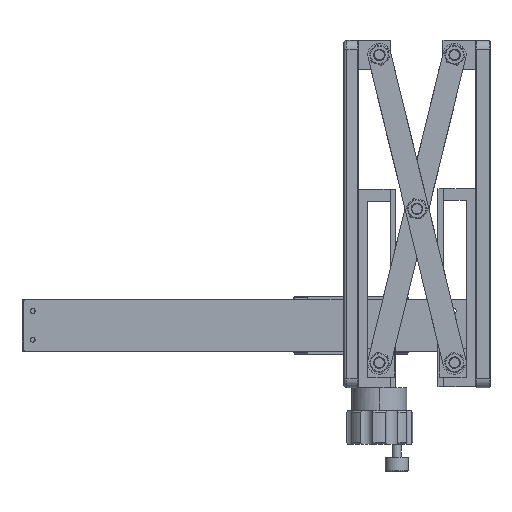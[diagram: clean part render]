
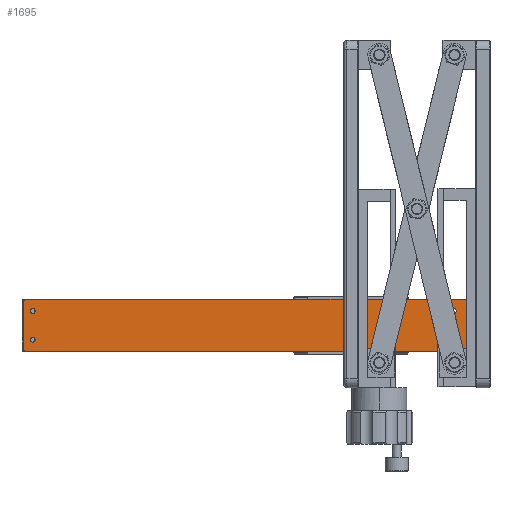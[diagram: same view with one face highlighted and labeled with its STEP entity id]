
A CAD part, left-side view. The second image highlights one B-rep face of the part: STEP entity #1695.
In plain terms, the highlighted planar face has unit normal (-1, 0, 0).
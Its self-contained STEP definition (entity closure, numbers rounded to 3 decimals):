
#116 = EDGE_CURVE ( 'NONE', #22372, #12798, #7504, .T. ) ;
#227 = VERTEX_POINT ( 'NONE', #7852 ) ;
#1053 = DIRECTION ( 'NONE',  ( 0., 1., 0. ) ) ;
#1215 = FACE_OUTER_BOUND ( 'NONE', #20936, .T. ) ;
#1256 = DIRECTION ( 'NONE',  ( 0., -1., 0. ) ) ;
#1667 = DIRECTION ( 'NONE',  ( 0., -1., 0. ) ) ;
#1686 = CARTESIAN_POINT ( 'NONE',  ( -41.555, 125.57, 53.002 ) ) ;
#1695 = ADVANCED_FACE ( 'NONE', ( #18269, #11701, #11332, #24161, #1215 ), #8747, .T. ) ;
#1816 = ORIENTED_EDGE ( 'NONE', *, *, #116, .F. ) ;
#1907 = EDGE_CURVE ( 'NONE', #9234, #32113, #12059, .T. ) ;
#2423 = DIRECTION ( 'NONE',  ( 0., -1., 0. ) ) ;
#2853 = ORIENTED_EDGE ( 'NONE', *, *, #13528, .T. ) ;
#2870 = DIRECTION ( 'NONE',  ( -1., 0., 0. ) ) ;
#3392 = AXIS2_PLACEMENT_3D ( 'NONE', #25658, #23598, #10777 ) ;
#3460 = VECTOR ( 'NONE', #16795, 1000. ) ;
#3512 = CARTESIAN_POINT ( 'NONE',  ( -41.555, 117.22, 45.002 ) ) ;
#3629 = LINE ( 'NONE', #3512, #29737 ) ;
#3656 = DIRECTION ( 'NONE',  ( -1., 0., 0. ) ) ;
#3743 = VERTEX_POINT ( 'NONE', #4622 ) ;
#3856 = AXIS2_PLACEMENT_3D ( 'NONE', #29557, #32042, #2423 ) ;
#3884 = EDGE_CURVE ( 'NONE', #4091, #10082, #6686, .T. ) ;
#3988 = CARTESIAN_POINT ( 'NONE',  ( -41.555, 422.72, 45.002 ) ) ;
#4091 = VERTEX_POINT ( 'NONE', #8296 ) ;
#4199 = AXIS2_PLACEMENT_3D ( 'NONE', #31542, #29019, #1667 ) ;
#4212 = ORIENTED_EDGE ( 'NONE', *, *, #7027, .F. ) ;
#4622 = CARTESIAN_POINT ( 'NONE',  ( -41.555, 422.72, 81.002 ) ) ;
#4764 = CIRCLE ( 'NONE', #4199, 1.65 ) ;
#5405 = EDGE_CURVE ( 'NONE', #27547, #24311, #18224, .T. ) ;
#5466 = CARTESIAN_POINT ( 'NONE',  ( -41.555, 418.22, 53.002 ) ) ;
#5670 = DIRECTION ( 'NONE',  ( -1., 0., 0. ) ) ;
#5758 = ORIENTED_EDGE ( 'NONE', *, *, #8484, .T. ) ;
#6051 = CARTESIAN_POINT ( 'NONE',  ( -41.555, 418.22, 53.002 ) ) ;
#6436 = AXIS2_PLACEMENT_3D ( 'NONE', #7235, #17429, #12227 ) ;
#6578 = CARTESIAN_POINT ( 'NONE',  ( -41.555, 416.57, 73.002 ) ) ;
#6686 = CIRCLE ( 'NONE', #6436, 1.65 ) ;
#6833 = CARTESIAN_POINT ( 'NONE',  ( -41.555, 424.72, 81.002 ) ) ;
#7027 = EDGE_CURVE ( 'NONE', #24311, #27547, #20834, .T. ) ;
#7235 = CARTESIAN_POINT ( 'NONE',  ( -41.555, 127.22, 73.002 ) ) ;
#7504 = CIRCLE ( 'NONE', #28763, 1.65 ) ;
#7538 = ORIENTED_EDGE ( 'NONE', *, *, #5405, .F. ) ;
#7852 = CARTESIAN_POINT ( 'NONE',  ( -41.555, 424.72, 79.002 ) ) ;
#8296 = CARTESIAN_POINT ( 'NONE',  ( -41.555, 128.87, 73.002 ) ) ;
#8377 = EDGE_CURVE ( 'NONE', #10082, #4091, #21142, .T. ) ;
#8484 = EDGE_CURVE ( 'NONE', #32113, #10541, #3629, .T. ) ;
#8747 = PLANE ( 'NONE',  #16715 ) ;
#9234 = VERTEX_POINT ( 'NONE', #3988 ) ;
#9380 = CARTESIAN_POINT ( 'NONE',  ( -41.555, 127.22, 53.002 ) ) ;
#9731 = EDGE_CURVE ( 'NONE', #3743, #227, #27337, .T. ) ;
#10082 = VERTEX_POINT ( 'NONE', #28451 ) ;
#10537 = CARTESIAN_POINT ( 'NONE',  ( -41.555, 419.87, 73.002 ) ) ;
#10541 = VERTEX_POINT ( 'NONE', #20287 ) ;
#10714 = AXIS2_PLACEMENT_3D ( 'NONE', #11747, #14244, #23112 ) ;
#10777 = DIRECTION ( 'NONE',  ( 0., -1., 0. ) ) ;
#11332 = FACE_BOUND ( 'NONE', #14102, .T. ) ;
#11372 = ORIENTED_EDGE ( 'NONE', *, *, #18642, .F. ) ;
#11701 = FACE_BOUND ( 'NONE', #31743, .T. ) ;
#11747 = CARTESIAN_POINT ( 'NONE',  ( -41.555, 127.22, 73.002 ) ) ;
#11899 = DIRECTION ( 'NONE',  ( 0., -1., 0. ) ) ;
#12059 = LINE ( 'NONE', #16762, #23370 ) ;
#12115 = DIRECTION ( 'NONE',  ( -1., 0., 0. ) ) ;
#12227 = DIRECTION ( 'NONE',  ( 0., -1., 0. ) ) ;
#12356 = DIRECTION ( 'NONE',  ( 0., -1., 0. ) ) ;
#12783 = LINE ( 'NONE', #6833, #3460 ) ;
#12798 = VERTEX_POINT ( 'NONE', #6578 ) ;
#13144 = AXIS2_PLACEMENT_3D ( 'NONE', #5466, #2870, #20228 ) ;
#13442 = CARTESIAN_POINT ( 'NONE',  ( -41.555, 424.72, 47.002 ) ) ;
#13528 = EDGE_CURVE ( 'NONE', #10541, #3743, #30954, .T. ) ;
#13652 = ORIENTED_EDGE ( 'NONE', *, *, #14162, .F. ) ;
#14102 = EDGE_LOOP ( 'NONE', ( #4212, #7538 ) ) ;
#14148 = VERTEX_POINT ( 'NONE', #13442 ) ;
#14162 = EDGE_CURVE ( 'NONE', #12798, #22372, #4764, .T. ) ;
#14244 = DIRECTION ( 'NONE',  ( -1., 0., 0. ) ) ;
#14736 = CIRCLE ( 'NONE', #27008, 1.65 ) ;
#15006 = ORIENTED_EDGE ( 'NONE', *, *, #18454, .T. ) ;
#15750 = AXIS2_PLACEMENT_3D ( 'NONE', #27052, #12115, #12356 ) ;
#15927 = CARTESIAN_POINT ( 'NONE',  ( -41.555, 117.22, 81.002 ) ) ;
#16495 = ORIENTED_EDGE ( 'NONE', *, *, #23762, .F. ) ;
#16715 = AXIS2_PLACEMENT_3D ( 'NONE', #18704, #31536, #31432 ) ;
#16762 = CARTESIAN_POINT ( 'NONE',  ( -41.555, 424.72, 45.002 ) ) ;
#16795 = DIRECTION ( 'NONE',  ( 0., 0., -1. ) ) ;
#16822 = VERTEX_POINT ( 'NONE', #18859 ) ;
#17429 = DIRECTION ( 'NONE',  ( -1., 0., 0. ) ) ;
#17433 = EDGE_LOOP ( 'NONE', ( #27167, #29957 ) ) ;
#17713 = CARTESIAN_POINT ( 'NONE',  ( -41.555, 418.22, 73.002 ) ) ;
#18224 = CIRCLE ( 'NONE', #30042, 1.65 ) ;
#18269 = FACE_BOUND ( 'NONE', #28805, .T. ) ;
#18454 = EDGE_CURVE ( 'NONE', #227, #14148, #12783, .T. ) ;
#18642 = EDGE_CURVE ( 'NONE', #31351, #16822, #26439, .T. ) ;
#18704 = CARTESIAN_POINT ( 'NONE',  ( -41.555, 263.72, 63.002 ) ) ;
#18859 = CARTESIAN_POINT ( 'NONE',  ( -41.555, 416.57, 53.002 ) ) ;
#20228 = DIRECTION ( 'NONE',  ( 0., -1., 0. ) ) ;
#20287 = CARTESIAN_POINT ( 'NONE',  ( -41.555, 117.22, 81.002 ) ) ;
#20834 = CIRCLE ( 'NONE', #3392, 1.65 ) ;
#20892 = DIRECTION ( 'NONE',  ( 0., 0., 1. ) ) ;
#20936 = EDGE_LOOP ( 'NONE', ( #15006, #24461, #21722, #5758, #2853, #23070 ) ) ;
#21142 = CIRCLE ( 'NONE', #10714, 1.65 ) ;
#21722 = ORIENTED_EDGE ( 'NONE', *, *, #1907, .T. ) ;
#22372 = VERTEX_POINT ( 'NONE', #10537 ) ;
#23059 = DIRECTION ( 'NONE',  ( 0., -1., 0. ) ) ;
#23070 = ORIENTED_EDGE ( 'NONE', *, *, #9731, .T. ) ;
#23112 = DIRECTION ( 'NONE',  ( 0., -1., 0. ) ) ;
#23370 = VECTOR ( 'NONE', #11899, 1000. ) ;
#23598 = DIRECTION ( 'NONE',  ( -1., 0., 0. ) ) ;
#23762 = EDGE_CURVE ( 'NONE', #16822, #31351, #14736, .T. ) ;
#24161 = FACE_BOUND ( 'NONE', #17433, .T. ) ;
#24311 = VERTEX_POINT ( 'NONE', #30645 ) ;
#24461 = ORIENTED_EDGE ( 'NONE', *, *, #32253, .T. ) ;
#24659 = VECTOR ( 'NONE', #1053, 1000. ) ;
#25658 = CARTESIAN_POINT ( 'NONE',  ( -41.555, 127.22, 53.002 ) ) ;
#25710 = CARTESIAN_POINT ( 'NONE',  ( -41.555, 419.87, 53.002 ) ) ;
#26439 = CIRCLE ( 'NONE', #13144, 1.65 ) ;
#26718 = DIRECTION ( 'NONE',  ( 0., -1., 0. ) ) ;
#26832 = DIRECTION ( 'NONE',  ( -1., 0., 0. ) ) ;
#27008 = AXIS2_PLACEMENT_3D ( 'NONE', #6051, #3656, #1256 ) ;
#27052 = CARTESIAN_POINT ( 'NONE',  ( -41.555, 422.72, 47.002 ) ) ;
#27167 = ORIENTED_EDGE ( 'NONE', *, *, #3884, .F. ) ;
#27337 = CIRCLE ( 'NONE', #3856, 2. ) ;
#27547 = VERTEX_POINT ( 'NONE', #1686 ) ;
#28451 = CARTESIAN_POINT ( 'NONE',  ( -41.555, 125.57, 73.002 ) ) ;
#28763 = AXIS2_PLACEMENT_3D ( 'NONE', #17713, #5670, #23059 ) ;
#28805 = EDGE_LOOP ( 'NONE', ( #11372, #16495 ) ) ;
#29019 = DIRECTION ( 'NONE',  ( -1., 0., 0. ) ) ;
#29557 = CARTESIAN_POINT ( 'NONE',  ( -41.555, 422.72, 79.002 ) ) ;
#29737 = VECTOR ( 'NONE', #20892, 1000. ) ;
#29957 = ORIENTED_EDGE ( 'NONE', *, *, #8377, .F. ) ;
#30042 = AXIS2_PLACEMENT_3D ( 'NONE', #9380, #26832, #26718 ) ;
#30645 = CARTESIAN_POINT ( 'NONE',  ( -41.555, 128.87, 53.002 ) ) ;
#30810 = CIRCLE ( 'NONE', #15750, 2. ) ;
#30954 = LINE ( 'NONE', #15927, #24659 ) ;
#31351 = VERTEX_POINT ( 'NONE', #25710 ) ;
#31432 = DIRECTION ( 'NONE',  ( 0., -1., 0. ) ) ;
#31536 = DIRECTION ( 'NONE',  ( -1., 0., 0. ) ) ;
#31542 = CARTESIAN_POINT ( 'NONE',  ( -41.555, 418.22, 73.002 ) ) ;
#31743 = EDGE_LOOP ( 'NONE', ( #1816, #13652 ) ) ;
#31764 = CARTESIAN_POINT ( 'NONE',  ( -41.555, 117.22, 45.002 ) ) ;
#32042 = DIRECTION ( 'NONE',  ( -1., 0., 0. ) ) ;
#32113 = VERTEX_POINT ( 'NONE', #31764 ) ;
#32253 = EDGE_CURVE ( 'NONE', #14148, #9234, #30810, .T. ) ;
